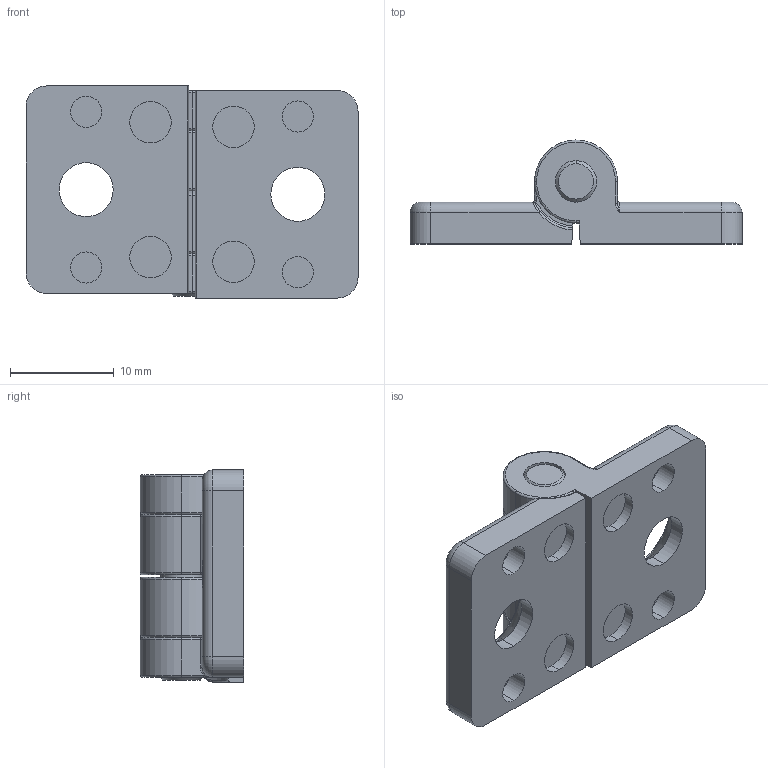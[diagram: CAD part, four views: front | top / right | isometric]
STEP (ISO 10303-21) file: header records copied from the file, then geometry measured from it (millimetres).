
FILE_DESCRIPTION(('STEP AP214'),'1');
FILE_NAME('C:/TPO v2/SharedFS/Outgoing/fath_095022f00.stp','2016-07-12T08:15:30',('TraceParts'),('TraceParts S.A.'),'Spatial InterOp 3D',' ',' ');
FILE_SCHEMA(('automotive_design'));
Length unit declared in the file: millimetre
Products named in the file (3): 095022f00|NAUO1#095022r_095 022 f00 r;Schnitt-Linear austragen6; 095022f00|NAUO2#095022r_095 022 f00 r;Schnitt-Linear austragen6; 095022f00|NAUO3#095022-01_095 022.01;CirPattern1
Bounding box: 32 x 10 x 20.45 mm (x, y, z)
Volume: 2831.3 mm3; surface area: 2967.1 mm2
Topology: 3 solids, 3 shells, 242 faces, 582 edges, 350 vertices
Faces by surface type: cylinder 90, plane 76, torus 36, cone 30, bspline 10
Entity records: 9379 total; most frequent: CARTESIAN_POINT 1877, ORIENTED_EDGE 1160, DIRECTION 1156, EDGE_CURVE 580, AXIS2_PLACEMENT_3D 477, VERTEX_POINT 350, EDGE_LOOP 260, STYLED_ITEM 245
